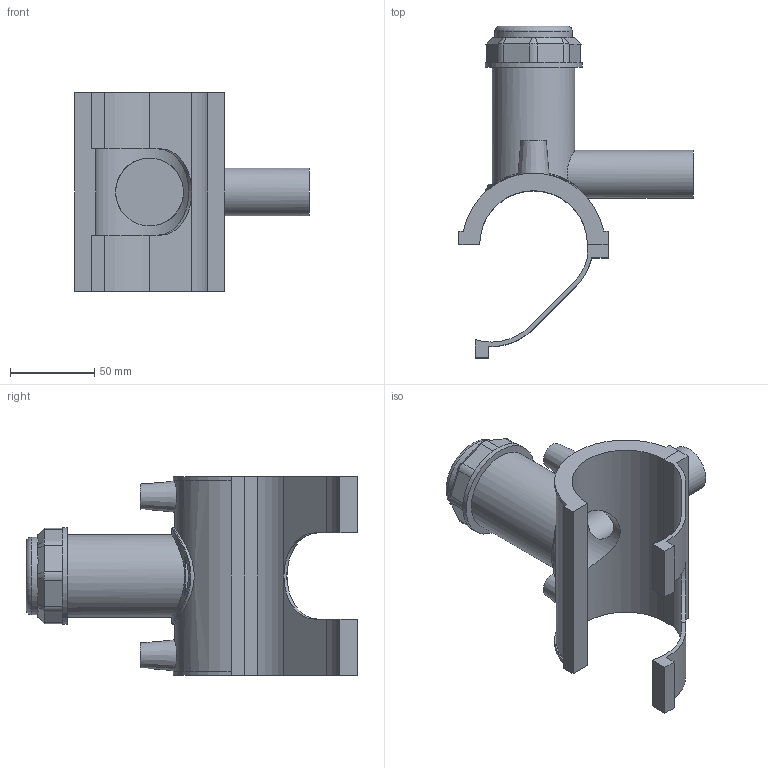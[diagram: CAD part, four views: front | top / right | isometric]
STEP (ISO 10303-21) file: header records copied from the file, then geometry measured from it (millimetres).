
FILE_DESCRIPTION(/* description */ ('PLASSON TAPPING SADDLE 2''''IPS x 1''''CTS'),/* implementation_level */ '2;1');
FILE_NAME(/* name */ 'C:\Dropbox\KIMPROJECTS-Inventor 2019\99-16-3568-Processing Inch\ASTM ElectroFusion 2021\5963B\5963BU03020010.ipt.stp',/* time_stamp */ '2021-08-30T09:56:09+03:00',/* author */ ('KIM'),/* organization */ (''),/* preprocessor_version */ 'ST-DEVELOPER v17.2',/* originating_system */ 'Autodesk Inventor 2019',/* authorisation */ '');
FILE_SCHEMA (('AUTOMOTIVE_DESIGN { 1 0 10303 214 3 1 1 }'));
Length unit declared in the file: millimetre
Products named in the file (1): 5963BU03020010
Bounding box: 139.45 x 197.43 x 118.11 mm (x, y, z)
Volume: 275004.4 mm3; surface area: 94529 mm2
Topology: 2 solids, 2 shells, 109 faces, 278 edges, 183 vertices
Faces by surface type: plane 64, cylinder 32, cone 11, torus 1, bspline 1
Full cylindrical faces by diameter (mm): 4 x2, 10 x2, 22.76 x1, 28.45 x1, 40.383 x1, 46.152 x1, 49.036 x1, 57.69 x1
Entity records: 3870 total; most frequent: CARTESIAN_POINT 1141, DIRECTION 565, ORIENTED_EDGE 556, EDGE_CURVE 278, AXIS2_PLACEMENT_3D 204, VERTEX_POINT 183, LINE 157, VECTOR 157
